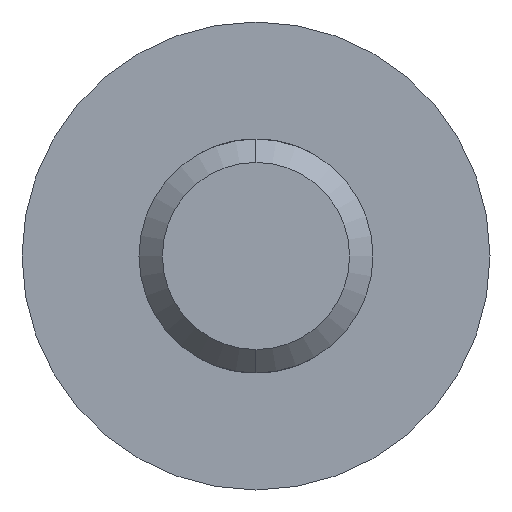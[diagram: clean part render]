
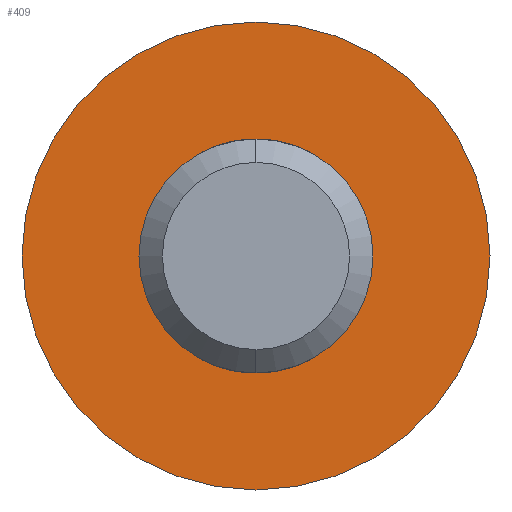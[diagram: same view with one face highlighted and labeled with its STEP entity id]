
A CAD part, left-side view. The second image highlights one B-rep face of the part: STEP entity #409.
In plain terms, the highlighted planar face has unit normal (-1, 0, 0).
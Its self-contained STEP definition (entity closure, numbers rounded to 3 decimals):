
#1 = EDGE_LOOP ( 'NONE', ( #291, #288 ) ) ;
#4 = CARTESIAN_POINT ( 'NONE',  ( 0., 0., 0. ) ) ;
#7 = ORIENTED_EDGE ( 'NONE', *, *, #403, .F. ) ;
#13 = DIRECTION ( 'NONE',  ( 1., 0., 0. ) ) ;
#15 = VERTEX_POINT ( 'NONE', #250 ) ;
#31 = EDGE_CURVE ( 'NONE', #227, #15, #181, .T. ) ;
#46 = CARTESIAN_POINT ( 'NONE',  ( 0., 0., 0. ) ) ;
#66 = VERTEX_POINT ( 'NONE', #245 ) ;
#78 = EDGE_CURVE ( 'NONE', #15, #227, #95, .T. ) ;
#85 = CIRCLE ( 'NONE', #328, 5. ) ;
#87 = AXIS2_PLACEMENT_3D ( 'NONE', #276, #144, #282 ) ;
#88 = CARTESIAN_POINT ( 'NONE',  ( 0., 0., 2.5 ) ) ;
#95 = CIRCLE ( 'NONE', #394, 2.5 ) ;
#101 = FACE_BOUND ( 'NONE', #1, .T. ) ;
#110 = EDGE_CURVE ( 'NONE', #312, #66, #85, .T. ) ;
#123 = DIRECTION ( 'NONE',  ( 1., 0., 0. ) ) ;
#144 = DIRECTION ( 'NONE',  ( 1., 0., 0. ) ) ;
#161 = CARTESIAN_POINT ( 'NONE',  ( 0., 0., -5. ) ) ;
#181 = CIRCLE ( 'NONE', #87, 2.5 ) ;
#196 = CARTESIAN_POINT ( 'NONE',  ( 0., 0., 0. ) ) ;
#227 = VERTEX_POINT ( 'NONE', #88 ) ;
#234 = DIRECTION ( 'NONE',  ( 0., 0., -1. ) ) ;
#237 = CIRCLE ( 'NONE', #373, 5. ) ;
#245 = CARTESIAN_POINT ( 'NONE',  ( 0., 0., 5. ) ) ;
#247 = DIRECTION ( 'NONE',  ( 0., 0., -1. ) ) ;
#250 = CARTESIAN_POINT ( 'NONE',  ( 0., 0., -2.5 ) ) ;
#258 = DIRECTION ( 'NONE',  ( 0., 0., -1. ) ) ;
#263 = EDGE_LOOP ( 'NONE', ( #7, #301 ) ) ;
#273 = DIRECTION ( 'NONE',  ( 1., 0., 0. ) ) ;
#276 = CARTESIAN_POINT ( 'NONE',  ( 0., 0., 0. ) ) ;
#282 = DIRECTION ( 'NONE',  ( 0., 0., -1. ) ) ;
#288 = ORIENTED_EDGE ( 'NONE', *, *, #31, .T. ) ;
#291 = ORIENTED_EDGE ( 'NONE', *, *, #78, .T. ) ;
#301 = ORIENTED_EDGE ( 'NONE', *, *, #110, .F. ) ;
#306 = DIRECTION ( 'NONE',  ( 0., 0., -1. ) ) ;
#312 = VERTEX_POINT ( 'NONE', #161 ) ;
#318 = CARTESIAN_POINT ( 'NONE',  ( 0., 0., 0. ) ) ;
#328 = AXIS2_PLACEMENT_3D ( 'NONE', #196, #358, #247 ) ;
#350 = AXIS2_PLACEMENT_3D ( 'NONE', #4, #123, #306 ) ;
#358 = DIRECTION ( 'NONE',  ( 1., 0., 0. ) ) ;
#363 = PLANE ( 'NONE',  #350 ) ;
#373 = AXIS2_PLACEMENT_3D ( 'NONE', #46, #273, #234 ) ;
#394 = AXIS2_PLACEMENT_3D ( 'NONE', #318, #13, #258 ) ;
#397 = FACE_OUTER_BOUND ( 'NONE', #263, .T. ) ;
#403 = EDGE_CURVE ( 'NONE', #66, #312, #237, .T. ) ;
#409 = ADVANCED_FACE ( 'NONE', ( #101, #397 ), #363, .F. ) ;
